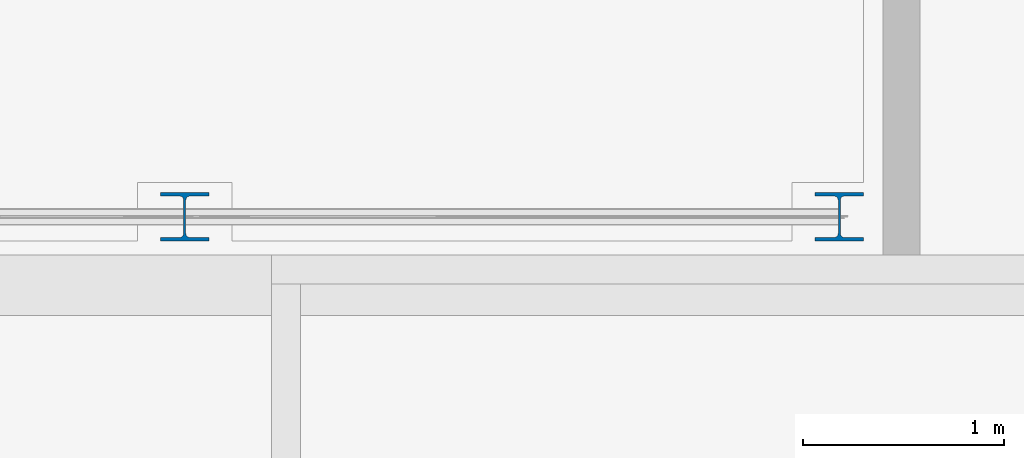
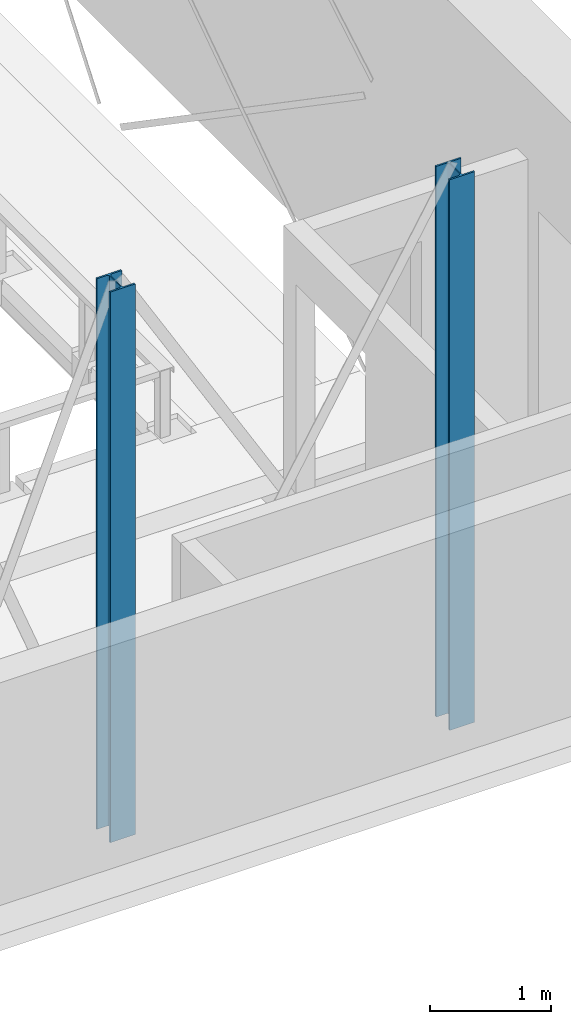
# One storey, part 2 of 68: 2 columns.
"""IFC2X3 building model written with IfcOpenShell, lengths in millimetres."""

from ifc_helpers import new_model, entity, si_unit, converted_unit, derived_unit, direction, frame, frame_2d, origin, place, context, subcontext, project, spatial, i_section, extrude, source, transform, mapped, material, type_object, type_shapes, element, save


model = new_model("IFC2X3")

# Units and contexts
model_context = context("Model", 3, precision=0.01, world=origin(), true_north=direction((6.12303176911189e-17, 1.0)))
body_context = subcontext(model_context, "Body", "Model", "MODEL_VIEW")
ifc_project = project(units=[si_unit("LENGTHUNIT", "METRE", prefix="MILLI"), si_unit("AREAUNIT", "SQUARE_METRE", prefix="MILLI"), si_unit("VOLUMEUNIT", "CUBIC_METRE"), converted_unit("PLANEANGLEUNIT", "DEGREE", entity("IfcRatioMeasure", 0.0174532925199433), si_unit("PLANEANGLEUNIT", "RADIAN"), dimensions=[0, 0, 0, 0, 0, 0, 0]), si_unit("MASSUNIT", "GRAM", prefix="KILO"), derived_unit("MASSDENSITYUNIT", [(si_unit("MASSUNIT", "GRAM", prefix="KILO"), 1), (si_unit("LENGTHUNIT", "METRE"), -3)]), derived_unit("MOMENTOFINERTIAUNIT", [(si_unit("LENGTHUNIT", "METRE"), 4)]), si_unit("TIMEUNIT", "SECOND"), si_unit("FREQUENCYUNIT", "HERTZ"), si_unit("THERMODYNAMICTEMPERATUREUNIT", "DEGREE_CELSIUS"), derived_unit("THERMALTRANSMITTANCEUNIT", [(si_unit("MASSUNIT", "GRAM", prefix="KILO"), 1), (si_unit("THERMODYNAMICTEMPERATUREUNIT", "KELVIN"), -1), (si_unit("TIMEUNIT", "SECOND"), -3)]), derived_unit("VOLUMETRICFLOWRATEUNIT", [(si_unit("LENGTHUNIT", "METRE"), 3), (si_unit("TIMEUNIT", "SECOND"), -1)]), si_unit("ELECTRICCURRENTUNIT", "AMPERE"), si_unit("ELECTRICVOLTAGEUNIT", "VOLT"), si_unit("POWERUNIT", "WATT"), si_unit("FORCEUNIT", "NEWTON", prefix="KILO"), si_unit("ILLUMINANCEUNIT", "LUX"), si_unit("LUMINOUSFLUXUNIT", "LUMEN"), si_unit("LUMINOUSINTENSITYUNIT", "CANDELA"), derived_unit("USERDEFINED", [(si_unit("MASSUNIT", "GRAM", prefix="KILO"), -1), (si_unit("LENGTHUNIT", "METRE"), -2), (si_unit("TIMEUNIT", "SECOND"), 3), (si_unit("LUMINOUSFLUXUNIT", "LUMEN"), 1)]), derived_unit("LINEARVELOCITYUNIT", [(si_unit("LENGTHUNIT", "METRE"), 1), (si_unit("TIMEUNIT", "SECOND"), -1)]), si_unit("PRESSUREUNIT", "PASCAL"), derived_unit("USERDEFINED", [(si_unit("LENGTHUNIT", "METRE"), -2), (si_unit("MASSUNIT", "GRAM", prefix="KILO"), 1), (si_unit("TIMEUNIT", "SECOND"), -2)]), derived_unit("LINEARFORCEUNIT", [(si_unit("MASSUNIT", "GRAM", prefix="KILO"), 1), (si_unit("LENGTHUNIT", "METRE"), 1), (si_unit("TIMEUNIT", "SECOND"), -2), (si_unit("LENGTHUNIT", "METRE"), -1)]), derived_unit("PLANARFORCEUNIT", [(si_unit("MASSUNIT", "GRAM", prefix="KILO"), 1), (si_unit("LENGTHUNIT", "METRE"), 1), (si_unit("TIMEUNIT", "SECOND"), -2), (si_unit("LENGTHUNIT", "METRE"), -2)])], contexts=[model_context])

# Site, building, storey
site_placement = place(None, origin())
site = spatial("IfcSite", under=ifc_project, at=site_placement, Name="Theater aan de Parade", CompositionType="ELEMENT")
building_placement = place(site_placement, origin())
building = spatial("IfcBuilding", under=site, at=building_placement, Name="Theater aan de Parade", CompositionType="ELEMENT")
storey_placement = place(building_placement, frame((0.0, 0.0, 8750.0)))
storey = spatial("IfcBuildingStorey", under=building, at=storey_placement, Name="02 tweede verdieping", CompositionType="ELEMENT", Elevation=8750.0)

# Columns
ifc_material = material(Name="00_PBT_MAT_staal_S355")
column_type_1 = type_object("IfcColumnType", Name="28_PBT_SC_staal_H-profiel:S355_HE240B", PredefinedType="COLUMN", material=ifc_material)
shared_shape_1 = source(origin(), body_context, "Body", "SweptSolid", [
    extrude(i_section(OverallWidth=240.000000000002, OverallDepth=240.0, WebThickness=10.0000000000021, FlangeThickness=17.0000000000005, FilletRadius=20.9999999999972, at=frame_2d((-1.08713038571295e-12, 2.16715534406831e-12), x_axis=(0.0, 1.0))), frame((34403.8440216, 14676.2906195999, 8625.0), z_axis=(0.0, 0.0, 1.0), x_axis=(0.0, -1.0, 0.0)), (0.0, 0.0, 1.0), 5575.0),
])
type_shapes(column_type_1, [shared_shape_1])
column_1_placement = place(storey_placement, frame((0.0, 0.0, -8750.0)))
element("IfcColumn", 1, at=column_1_placement, inside=storey, type_object=column_type_1, material=ifc_material, Name="28_PBT_SC_staal_H-profiel:S355_HE240B", ObjectType="28_PBT_SC_staal_H-profiel:S355_HE240B", context=body_context, shape_type="MappedRepresentation", body=[
    mapped(shared_shape_1, transform((0.0, 0.0, 0.0), scale=1.0)),
])
column_type_2 = type_object("IfcColumnType", Name="28_PBT_SC_staal_H-profiel:S355_HE240B", PredefinedType="COLUMN", material=ifc_material)
shared_shape_2 = source(origin(), body_context, "Body", "SweptSolid", [
    extrude(i_section(OverallWidth=240.000000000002, OverallDepth=240.0, WebThickness=10.0000000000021, FlangeThickness=17.0000000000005, FilletRadius=20.9999999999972, at=frame_2d((1.08713038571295e-12, -2.16715534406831e-12), x_axis=(0.0, 1.0))), frame((31153.8570032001, 14676.2906195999, 8625.0), z_axis=(0.0, 0.0, 1.0), x_axis=(0.0, -1.0, 0.0)), (0.0, 0.0, 1.0), 5575.0),
])
type_shapes(column_type_2, [shared_shape_2])
column_2_placement = place(storey_placement, frame((0.0, 0.0, -8750.0)))
element("IfcColumn", 2, at=column_2_placement, inside=storey, type_object=column_type_2, material=ifc_material, Name="28_PBT_SC_staal_H-profiel:S355_HE240B", ObjectType="28_PBT_SC_staal_H-profiel:S355_HE240B", context=body_context, shape_type="MappedRepresentation", body=[
    mapped(shared_shape_2, transform((0.0, 0.0, 0.0), scale=1.0)),
])

save(model, "model.ifc")
